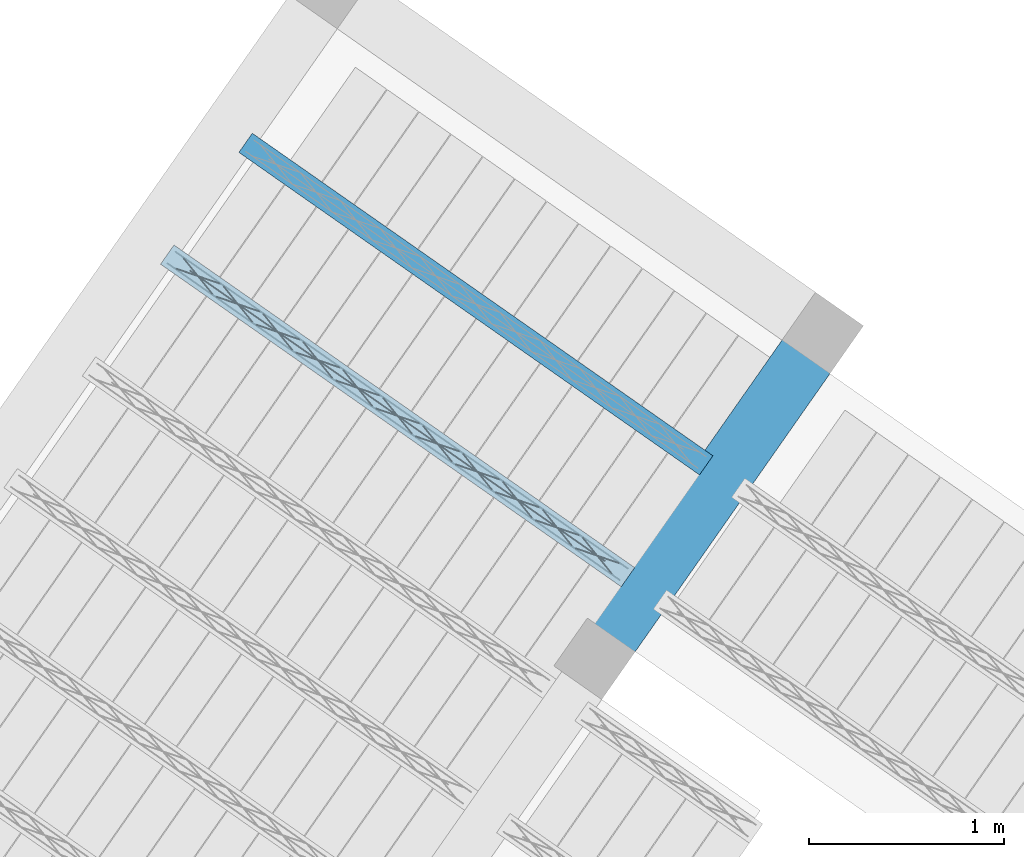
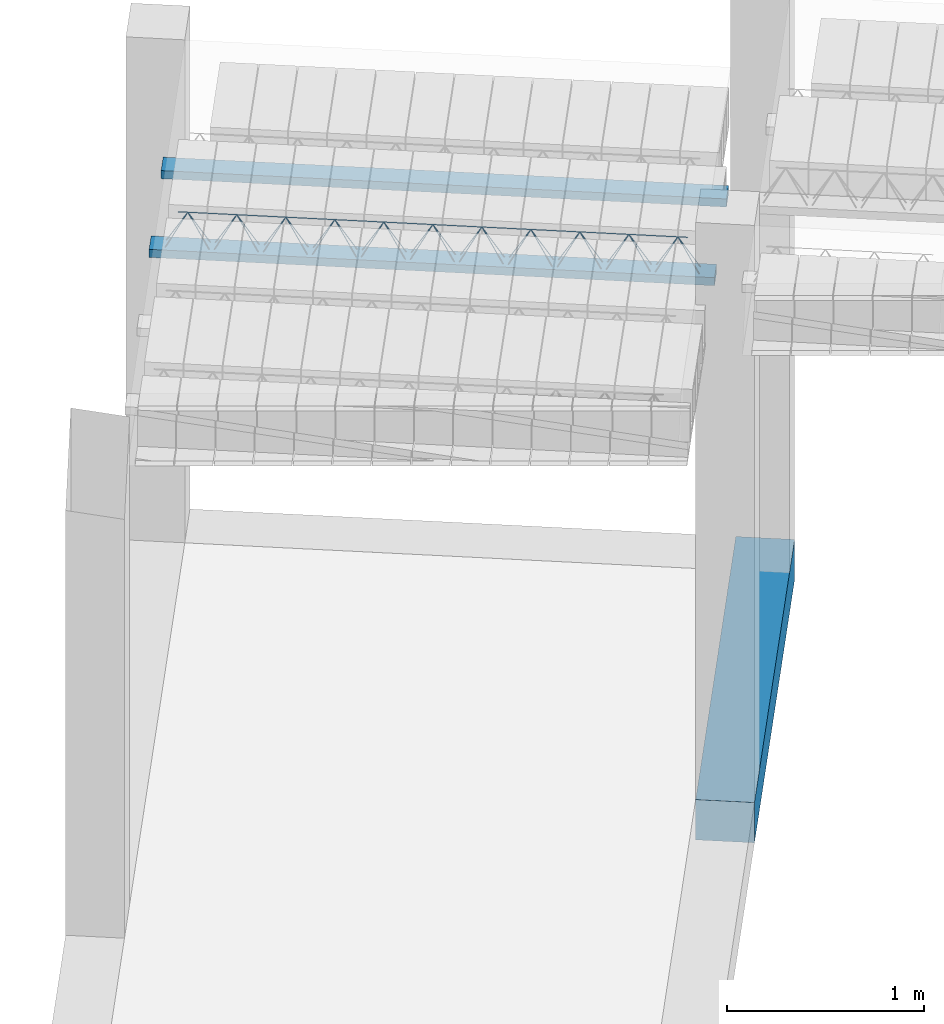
# One storey, part 40 of 80: 3 beams.
"""IFC2X3 building model written with IfcOpenShell, lengths in metres."""

from ifc_helpers import new_model, entity, si_unit, converted_unit, derived_unit, direction, frame, frame_2d, origin, origin_2d_with_axis, place, context, subcontext, project, spatial, rectangle, circle, extrude, material, type_object, element, save


model = new_model("IFC2X3")

# Units and contexts
model_context = context("Model", 3, precision=1e-05, world=origin(), true_north=direction((6.123031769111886e-17, 1.0)))
body_context = subcontext(model_context, "Body", "Model", "MODEL_VIEW")
ifc_project = project(units=[si_unit("LENGTHUNIT", "METRE"), si_unit("AREAUNIT", "SQUARE_METRE"), si_unit("VOLUMEUNIT", "CUBIC_METRE"), converted_unit("PLANEANGLEUNIT", "DEGREE", entity("IfcPlaneAngleMeasure", 0.017453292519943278), si_unit("PLANEANGLEUNIT", "RADIAN"), dimensions=[0, 0, 0, 0, 0, 0, 0]), si_unit("MASSUNIT", "GRAM", prefix="KILO"), derived_unit("MASSDENSITYUNIT", [(si_unit("MASSUNIT", "GRAM", prefix="KILO"), 1), (si_unit("LENGTHUNIT", "METRE"), -3)]), derived_unit("IONCONCENTRATIONUNIT", [(si_unit("MASSUNIT", "GRAM", prefix="KILO"), 1), (si_unit("LENGTHUNIT", "METRE"), -3)]), derived_unit("MOMENTOFINERTIAUNIT", [(si_unit("LENGTHUNIT", "METRE"), 4)]), si_unit("TIMEUNIT", "SECOND"), si_unit("FREQUENCYUNIT", "HERTZ"), si_unit("THERMODYNAMICTEMPERATUREUNIT", "DEGREE_CELSIUS"), derived_unit("THERMALTRANSMITTANCEUNIT", [(si_unit("MASSUNIT", "GRAM", prefix="KILO"), 1), (si_unit("THERMODYNAMICTEMPERATUREUNIT", "KELVIN"), -1), (si_unit("TIMEUNIT", "SECOND"), -3)]), derived_unit("THERMALCONDUCTANCEUNIT", [(si_unit("MASSUNIT", "GRAM", prefix="KILO"), 1), (si_unit("THERMODYNAMICTEMPERATUREUNIT", "KELVIN"), -1), (si_unit("TIMEUNIT", "SECOND"), -3), (si_unit("LENGTHUNIT", "METRE"), 1)]), derived_unit("VOLUMETRICFLOWRATEUNIT", [(si_unit("LENGTHUNIT", "METRE", prefix="DECI"), 3), (si_unit("TIMEUNIT", "SECOND"), -1)]), derived_unit("MASSFLOWRATEUNIT", [(si_unit("MASSUNIT", "GRAM", prefix="KILO"), 1), (si_unit("TIMEUNIT", "SECOND"), -1)]), derived_unit("ROTATIONALFREQUENCYUNIT", [(si_unit("TIMEUNIT", "SECOND"), -1)]), si_unit("ELECTRICCURRENTUNIT", "AMPERE"), si_unit("ELECTRICVOLTAGEUNIT", "VOLT"), si_unit("POWERUNIT", "WATT"), si_unit("FORCEUNIT", "NEWTON", prefix="KILO"), si_unit("ILLUMINANCEUNIT", "LUX"), si_unit("LUMINOUSFLUXUNIT", "LUMEN"), si_unit("LUMINOUSINTENSITYUNIT", "CANDELA"), si_unit("ENERGYUNIT", "JOULE"), derived_unit("USERDEFINED", [(si_unit("MASSUNIT", "GRAM", prefix="KILO"), -1), (si_unit("LENGTHUNIT", "METRE"), -2), (si_unit("TIMEUNIT", "SECOND"), 3), (si_unit("LUMINOUSFLUXUNIT", "LUMEN"), 1)]), derived_unit("USERDEFINED", [(si_unit("MASSUNIT", "GRAM", prefix="KILO"), 1), (si_unit("TIMEUNIT", "SECOND"), -3), (si_unit("LENGTHUNIT", "METRE"), 3), (si_unit("ELECTRICCURRENTUNIT", "AMPERE"), -2)]), derived_unit("SOUNDPOWERUNIT", [(si_unit("MASSUNIT", "GRAM", prefix="KILO"), 1), (si_unit("TIMEUNIT", "SECOND"), -3), (si_unit("LENGTHUNIT", "METRE"), 2)]), derived_unit("SOUNDPRESSUREUNIT", [(si_unit("MASSUNIT", "GRAM", prefix="KILO"), 1), (si_unit("LENGTHUNIT", "METRE"), -1), (si_unit("TIMEUNIT", "SECOND"), -2)]), derived_unit("LINEARVELOCITYUNIT", [(si_unit("LENGTHUNIT", "METRE"), 1), (si_unit("TIMEUNIT", "SECOND"), -1)]), si_unit("PRESSUREUNIT", "PASCAL"), derived_unit("USERDEFINED", [(si_unit("MASSUNIT", "GRAM", prefix="KILO"), 1), (si_unit("LENGTHUNIT", "METRE"), -2), (si_unit("TIMEUNIT", "SECOND"), -2)]), derived_unit("LINEARFORCEUNIT", [(si_unit("MASSUNIT", "GRAM", prefix="KILO"), 1), (si_unit("TIMEUNIT", "SECOND"), -2)]), derived_unit("PLANARFORCEUNIT", [(si_unit("MASSUNIT", "GRAM", prefix="KILO"), 1), (si_unit("LENGTHUNIT", "METRE"), -1), (si_unit("TIMEUNIT", "SECOND"), -2)]), derived_unit("SPECIFICHEATCAPACITYUNIT", [(si_unit("THERMODYNAMICTEMPERATUREUNIT", "KELVIN"), -1), (si_unit("LENGTHUNIT", "METRE"), 2), (si_unit("TIMEUNIT", "SECOND"), -2)]), derived_unit("HEATFLUXDENSITYUNIT", [(si_unit("MASSUNIT", "GRAM", prefix="KILO"), 1), (si_unit("TIMEUNIT", "SECOND"), -3)]), derived_unit("HEATINGVALUEUNIT", [(si_unit("LENGTHUNIT", "METRE"), 2), (si_unit("TIMEUNIT", "SECOND"), -2)]), derived_unit("VAPORPERMEABILITYUNIT", [(si_unit("LENGTHUNIT", "METRE"), -1), (si_unit("TIMEUNIT", "SECOND"), 1)]), derived_unit("DYNAMICVISCOSITYUNIT", [(si_unit("MASSUNIT", "GRAM", prefix="KILO"), 1), (si_unit("TIMEUNIT", "SECOND"), -1), (si_unit("LENGTHUNIT", "METRE"), -1)]), derived_unit("THERMALEXPANSIONCOEFFICIENTUNIT", [(si_unit("THERMODYNAMICTEMPERATUREUNIT", "KELVIN"), -1)]), derived_unit("MODULUSOFELASTICITYUNIT", [(si_unit("MASSUNIT", "GRAM", prefix="KILO"), 1), (si_unit("LENGTHUNIT", "METRE"), -1), (si_unit("TIMEUNIT", "SECOND"), -2)]), derived_unit("ISOTHERMALMOISTURECAPACITYUNIT", [(si_unit("MASSUNIT", "GRAM", prefix="KILO"), -1), (si_unit("LENGTHUNIT", "METRE"), 3)]), derived_unit("MOISTUREDIFFUSIVITYUNIT", [(si_unit("TIMEUNIT", "SECOND"), -1), (si_unit("LENGTHUNIT", "METRE"), 2)]), derived_unit("MASSPERLENGTHUNIT", [(si_unit("MASSUNIT", "GRAM", prefix="KILO"), 1), (si_unit("LENGTHUNIT", "METRE"), -1)]), derived_unit("THERMALRESISTANCEUNIT", [(si_unit("MASSUNIT", "GRAM", prefix="KILO"), -1), (si_unit("TIMEUNIT", "SECOND"), 3), (si_unit("THERMODYNAMICTEMPERATUREUNIT", "KELVIN"), 1)]), derived_unit("ACCELERATIONUNIT", [(si_unit("LENGTHUNIT", "METRE"), 1), (si_unit("TIMEUNIT", "SECOND"), -2)]), derived_unit("ANGULARVELOCITYUNIT", [(si_unit("TIMEUNIT", "SECOND"), -1), (si_unit("PLANEANGLEUNIT", "RADIAN"), 1)]), derived_unit("LINEARSTIFFNESSUNIT", [(si_unit("MASSUNIT", "GRAM", prefix="KILO"), 1), (si_unit("TIMEUNIT", "SECOND"), -2)]), derived_unit("WARPINGCONSTANTUNIT", [(si_unit("LENGTHUNIT", "METRE"), 6)]), derived_unit("LINEARMOMENTUNIT", [(si_unit("MASSUNIT", "GRAM", prefix="KILO"), 1), (si_unit("LENGTHUNIT", "METRE"), 1), (si_unit("TIMEUNIT", "SECOND"), -2)]), derived_unit("TORQUEUNIT", [(si_unit("MASSUNIT", "GRAM", prefix="KILO"), 1), (si_unit("LENGTHUNIT", "METRE"), 2), (si_unit("TIMEUNIT", "SECOND"), -2)])], contexts=[model_context])

# Site, building, storey
site_placement = place(None, origin())
site = spatial("IfcSite", under=ifc_project, at=site_placement, Name="Default", CompositionType="ELEMENT")
building_placement = place(site_placement, origin())
building = spatial("IfcBuilding", under=site, at=building_placement, CompositionType="ELEMENT")
storey_placement = place(building_placement, frame((0.0, 0.0, 95.94)))
storey = spatial("IfcBuildingStorey", under=building, at=storey_placement, Name="PB", CompositionType="ELEMENT", Elevation=95.94)

# Beams
beam_type = type_object("IfcBeamType", Name="Vigueta 13 (Paño 2) (Mf = 11.09)", PredefinedType="JOIST")
beam_1_placement = place(storey_placement, origin())
element("IfcBeam", 1, at=beam_1_placement, inside=storey, type_object=beam_type, Name="Vigueta 13 (Paño 2) (Mf = 11.09)", ObjectType="Mf = 11.09", context=body_context, shape_type="SweptSolid", body=[
    extrude(rectangle(XDim=2.8843562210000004, YDim=0.12000000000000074, at=frame_2d((-4.440892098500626e-16, -3.365363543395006e-16), x_axis=(1.0, 0.0))), frame((4.819488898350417, 8.772409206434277, 2.82), z_axis=(0.0, 0.0, 1.0), x_axis=(0.8191520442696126, -0.5735764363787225, 0.0)), (0.0, 0.0, 1.0), 0.04999999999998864),
    extrude(circle(Radius=0.0025, at=origin_2d_with_axis()), frame((5.960543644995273, 7.9294861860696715, 2.8449999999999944), z_axis=(-0.8191520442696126, 0.5735764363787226, 0.0), x_axis=(-0.5735764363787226, -0.8191520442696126, 0.0)), (0.0, 0.0, 1.0), 2.836356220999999),
    extrude(circle(Radius=0.0025, at=origin_2d_with_axis()), frame((3.754591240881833, 9.51805857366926, 3.069999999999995), z_axis=(0.8191520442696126, -0.5735764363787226, 0.0), x_axis=(-0.5735764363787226, -0.8191520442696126, 0.0)), (0.0, 0.0, 1.0), 2.599999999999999),
    extrude(circle(Radius=0.0025, at=origin_2d_with_axis()), frame((5.925174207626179, 7.954252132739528, 2.8449999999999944), z_axis=(-0.3145304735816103, 0.389334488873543, 0.8657304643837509), x_axis=(-0.7778747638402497, -0.6284193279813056, 0.0)), (0.0, 0.0, 1.0), 0.2598961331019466),
    extrude(circle(Radius=0.0025, at=origin_2d_with_axis()), frame((5.720386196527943, 8.097646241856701, 2.8449999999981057), z_axis=(0.47343050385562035, -0.1624017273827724, 0.8657304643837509), x_axis=(-0.3244721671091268, -0.9458952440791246, 0.0)), (0.0, 0.0, 1.0), 0.25989613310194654),
    extrude(circle(Radius=0.0025, at=origin_2d_with_axis()), frame((5.720386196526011, 8.09764624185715, 2.8449999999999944), z_axis=(-0.3145304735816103, 0.389334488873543, 0.8657304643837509), x_axis=(-0.7778747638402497, -0.6284193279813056, 0.0)), (0.0, 0.0, 1.0), 0.2598961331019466),
    extrude(circle(Radius=0.0025, at=origin_2d_with_axis()), frame((5.51559818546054, 8.241040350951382, 2.8449999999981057), z_axis=(0.47343050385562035, -0.1624017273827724, 0.8657304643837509), x_axis=(-0.3244721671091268, -0.9458952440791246, 0.0)), (0.0, 0.0, 1.0), 0.25989613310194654),
    extrude(circle(Radius=0.0025, at=origin_2d_with_axis()), frame((5.5155981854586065, 8.241040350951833, 2.8449999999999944), z_axis=(-0.3145304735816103, 0.389334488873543, 0.8657304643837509), x_axis=(-0.7778747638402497, -0.6284193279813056, 0.0)), (0.0, 0.0, 1.0), 0.2598961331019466),
    extrude(circle(Radius=0.0025, at=origin_2d_with_axis()), frame((5.310810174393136, 8.38443446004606, 2.8449999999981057), z_axis=(0.47343050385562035, -0.1624017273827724, 0.8657304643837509), x_axis=(-0.3244721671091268, -0.9458952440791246, 0.0)), (0.0, 0.0, 1.0), 0.25989613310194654),
    extrude(circle(Radius=0.0025, at=origin_2d_with_axis()), frame((5.310810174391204, 8.384434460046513, 2.8449999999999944), z_axis=(-0.3145304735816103, 0.389334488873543, 0.8657304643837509), x_axis=(-0.7778747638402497, -0.6284193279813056, 0.0)), (0.0, 0.0, 1.0), 0.2598961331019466),
    extrude(circle(Radius=0.0025, at=origin_2d_with_axis()), frame((5.106022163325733, 8.527828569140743, 2.8449999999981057), z_axis=(0.47343050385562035, -0.1624017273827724, 0.8657304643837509), x_axis=(-0.3244721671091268, -0.9458952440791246, 0.0)), (0.0, 0.0, 1.0), 0.25989613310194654),
    extrude(circle(Radius=0.0025, at=origin_2d_with_axis()), frame((5.1060221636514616, 8.527828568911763, 2.8449999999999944), z_axis=(-0.3145304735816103, 0.389334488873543, 0.8657304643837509), x_axis=(-0.7778747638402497, -0.6284193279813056, 0.0)), (0.0, 0.0, 1.0), 0.2598961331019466),
    extrude(circle(Radius=0.0025, at=origin_2d_with_axis()), frame((4.9012341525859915, 8.671222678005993, 2.8449999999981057), z_axis=(0.47343050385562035, -0.1624017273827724, 0.8657304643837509), x_axis=(-0.3244721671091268, -0.9458952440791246, 0.0)), (0.0, 0.0, 1.0), 0.25989613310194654),
    extrude(circle(Radius=0.0025, at=origin_2d_with_axis()), frame((4.901234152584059, 8.671222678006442, 2.8449999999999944), z_axis=(-0.3145304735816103, 0.389334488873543, 0.8657304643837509), x_axis=(-0.7778747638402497, -0.6284193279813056, 0.0)), (0.0, 0.0, 1.0), 0.2598961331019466),
    extrude(circle(Radius=0.0025, at=origin_2d_with_axis()), frame((4.696446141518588, 8.814616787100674, 2.8449999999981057), z_axis=(0.47343050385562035, -0.1624017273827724, 0.8657304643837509), x_axis=(-0.3244721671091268, -0.9458952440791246, 0.0)), (0.0, 0.0, 1.0), 0.25989613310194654),
    extrude(circle(Radius=0.0025, at=origin_2d_with_axis()), frame((4.696446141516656, 8.814616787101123, 2.8449999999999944), z_axis=(-0.3145304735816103, 0.389334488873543, 0.8657304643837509), x_axis=(-0.7778747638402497, -0.6284193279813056, 0.0)), (0.0, 0.0, 1.0), 0.2598961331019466),
    extrude(circle(Radius=0.0025, at=origin_2d_with_axis()), frame((4.491658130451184, 8.958010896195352, 2.8449999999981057), z_axis=(0.47343050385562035, -0.1624017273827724, 0.8657304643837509), x_axis=(-0.3244721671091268, -0.9458952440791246, 0.0)), (0.0, 0.0, 1.0), 0.25989613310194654),
    extrude(circle(Radius=0.0025, at=origin_2d_with_axis()), frame((4.491658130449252, 8.958010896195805, 2.8449999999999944), z_axis=(-0.3145304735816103, 0.389334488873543, 0.8657304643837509), x_axis=(-0.7778747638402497, -0.6284193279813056, 0.0)), (0.0, 0.0, 1.0), 0.2598961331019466),
    extrude(circle(Radius=0.0025, at=origin_2d_with_axis()), frame((4.2868701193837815, 9.101405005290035, 2.8449999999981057), z_axis=(0.47343050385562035, -0.1624017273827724, 0.8657304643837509), x_axis=(-0.3244721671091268, -0.9458952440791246, 0.0)), (0.0, 0.0, 1.0), 0.25989613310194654),
    extrude(circle(Radius=0.0025, at=origin_2d_with_axis()), frame((4.286870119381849, 9.101405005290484, 2.8449999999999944), z_axis=(-0.3145304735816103, 0.389334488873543, 0.8657304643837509), x_axis=(-0.7778747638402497, -0.6284193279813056, 0.0)), (0.0, 0.0, 1.0), 0.2598961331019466),
    extrude(circle(Radius=0.0025, at=origin_2d_with_axis()), frame((4.082082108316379, 9.244799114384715, 2.8449999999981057), z_axis=(0.47343050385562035, -0.1624017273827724, 0.8657304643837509), x_axis=(-0.3244721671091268, -0.9458952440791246, 0.0)), (0.0, 0.0, 1.0), 0.25989613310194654),
    extrude(circle(Radius=0.0025, at=origin_2d_with_axis()), frame((4.082082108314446, 9.244799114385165, 2.8449999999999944), z_axis=(-0.3145304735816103, 0.389334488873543, 0.8657304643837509), x_axis=(-0.7778747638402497, -0.6284193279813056, 0.0)), (0.0, 0.0, 1.0), 0.2598961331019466),
    extrude(circle(Radius=0.0025, at=origin_2d_with_axis()), frame((3.877294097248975, 9.388193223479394, 2.8449999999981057), z_axis=(0.47343050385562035, -0.1624017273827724, 0.8657304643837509), x_axis=(-0.3244721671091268, -0.9458952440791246, 0.0)), (0.0, 0.0, 1.0), 0.25989613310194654),
    extrude(circle(Radius=0.0025, at=origin_2d_with_axis()), frame((3.8772940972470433, 9.388193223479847, 2.8449999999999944), z_axis=(-0.3145304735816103, 0.389334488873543, 0.8657304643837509), x_axis=(-0.7778747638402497, -0.6284193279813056, 0.0)), (0.0, 0.0, 1.0), 0.2598961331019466),
    extrude(circle(Radius=0.0025, at=origin_2d_with_axis()), frame((3.672506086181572, 9.531587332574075, 2.8449999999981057), z_axis=(0.47343050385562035, -0.1624017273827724, 0.8657304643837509), x_axis=(-0.3244721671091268, -0.9458952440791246, 0.0)), (0.0, 0.0, 1.0), 0.25989613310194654),
    extrude(circle(Radius=0.0025, at=origin_2d_with_axis()), frame((6.00184114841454, 7.988465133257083, 2.8449999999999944), z_axis=(-0.8191520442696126, 0.5735764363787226, 0.0), x_axis=(-0.5735764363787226, -0.8191520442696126, 0.0)), (0.0, 0.0, 1.0), 2.836356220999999),
    extrude(circle(Radius=0.0025, at=origin_2d_with_axis()), frame((5.966471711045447, 8.01323107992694, 2.8449999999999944), z_axis=(-0.47343050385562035, 0.1624017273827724, 0.8657304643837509), x_axis=(-0.3244721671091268, -0.9458952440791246, 0.0)), (0.0, 0.0, 1.0), 0.25989613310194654),
    extrude(circle(Radius=0.0025, at=origin_2d_with_axis()), frame((5.761683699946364, 8.156625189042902, 2.8449999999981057), z_axis=(0.3145304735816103, -0.389334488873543, 0.8657304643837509), x_axis=(-0.7778747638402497, -0.6284193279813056, 0.0)), (0.0, 0.0, 1.0), 0.2598961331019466),
    extrude(circle(Radius=0.0025, at=origin_2d_with_axis()), frame((5.761683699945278, 8.156625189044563, 2.8449999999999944), z_axis=(-0.47343050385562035, 0.1624017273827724, 0.8657304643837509), x_axis=(-0.3244721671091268, -0.9458952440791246, 0.0)), (0.0, 0.0, 1.0), 0.25989613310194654),
    extrude(circle(Radius=0.0025, at=origin_2d_with_axis()), frame((5.556895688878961, 8.300019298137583, 2.8449999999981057), z_axis=(0.3145304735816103, -0.389334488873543, 0.8657304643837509), x_axis=(-0.7778747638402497, -0.6284193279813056, 0.0)), (0.0, 0.0, 1.0), 0.2598961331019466),
    extrude(circle(Radius=0.0025, at=origin_2d_with_axis()), frame((5.556895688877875, 8.300019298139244, 2.8449999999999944), z_axis=(-0.47343050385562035, 0.1624017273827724, 0.8657304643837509), x_axis=(-0.3244721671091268, -0.9458952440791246, 0.0)), (0.0, 0.0, 1.0), 0.25989613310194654),
    extrude(circle(Radius=0.0025, at=origin_2d_with_axis()), frame((5.352107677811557, 8.443413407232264, 2.8449999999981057), z_axis=(0.3145304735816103, -0.389334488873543, 0.8657304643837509), x_axis=(-0.7778747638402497, -0.6284193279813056, 0.0)), (0.0, 0.0, 1.0), 0.2598961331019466),
    extrude(circle(Radius=0.0025, at=origin_2d_with_axis()), frame((5.352107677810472, 8.443413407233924, 2.8449999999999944), z_axis=(-0.47343050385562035, 0.1624017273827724, 0.8657304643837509), x_axis=(-0.3244721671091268, -0.9458952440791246, 0.0)), (0.0, 0.0, 1.0), 0.25989613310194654),
    extrude(circle(Radius=0.0025, at=origin_2d_with_axis()), frame((5.147319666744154, 8.586807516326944, 2.8449999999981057), z_axis=(0.3145304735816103, -0.389334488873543, 0.8657304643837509), x_axis=(-0.7778747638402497, -0.6284193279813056, 0.0)), (0.0, 0.0, 1.0), 0.2598961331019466),
    extrude(circle(Radius=0.0025, at=origin_2d_with_axis()), frame((5.147319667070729, 8.586807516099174, 2.8449999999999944), z_axis=(-0.47343050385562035, 0.1624017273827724, 0.8657304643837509), x_axis=(-0.3244721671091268, -0.9458952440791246, 0.0)), (0.0, 0.0, 1.0), 0.25989613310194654),
    extrude(circle(Radius=0.0025, at=origin_2d_with_axis()), frame((4.942531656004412, 8.730201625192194, 2.8449999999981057), z_axis=(0.3145304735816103, -0.389334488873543, 0.8657304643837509), x_axis=(-0.7778747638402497, -0.6284193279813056, 0.0)), (0.0, 0.0, 1.0), 0.2598961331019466),
    extrude(circle(Radius=0.0025, at=origin_2d_with_axis()), frame((4.942531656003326, 8.730201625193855, 2.8449999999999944), z_axis=(-0.47343050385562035, 0.1624017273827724, 0.8657304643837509), x_axis=(-0.3244721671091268, -0.9458952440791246, 0.0)), (0.0, 0.0, 1.0), 0.25989613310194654),
    extrude(circle(Radius=0.0025, at=origin_2d_with_axis()), frame((4.737743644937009, 8.873595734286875, 2.8449999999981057), z_axis=(0.3145304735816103, -0.389334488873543, 0.8657304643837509), x_axis=(-0.7778747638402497, -0.6284193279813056, 0.0)), (0.0, 0.0, 1.0), 0.2598961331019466),
    extrude(circle(Radius=0.0025, at=origin_2d_with_axis()), frame((4.737743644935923, 8.873595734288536, 2.8449999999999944), z_axis=(-0.47343050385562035, 0.1624017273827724, 0.8657304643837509), x_axis=(-0.3244721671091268, -0.9458952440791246, 0.0)), (0.0, 0.0, 1.0), 0.25989613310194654),
    extrude(circle(Radius=0.0025, at=origin_2d_with_axis()), frame((4.532955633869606, 9.016989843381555, 2.8449999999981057), z_axis=(0.3145304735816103, -0.389334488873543, 0.8657304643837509), x_axis=(-0.7778747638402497, -0.6284193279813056, 0.0)), (0.0, 0.0, 1.0), 0.2598961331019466),
    extrude(circle(Radius=0.0025, at=origin_2d_with_axis()), frame((4.53295563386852, 9.016989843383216, 2.8449999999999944), z_axis=(-0.47343050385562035, 0.1624017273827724, 0.8657304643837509), x_axis=(-0.3244721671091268, -0.9458952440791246, 0.0)), (0.0, 0.0, 1.0), 0.25989613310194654),
    extrude(circle(Radius=0.0025, at=origin_2d_with_axis()), frame((4.328167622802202, 9.160383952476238, 2.8449999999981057), z_axis=(0.3145304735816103, -0.389334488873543, 0.8657304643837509), x_axis=(-0.7778747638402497, -0.6284193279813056, 0.0)), (0.0, 0.0, 1.0), 0.2598961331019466),
    extrude(circle(Radius=0.0025, at=origin_2d_with_axis()), frame((4.328167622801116, 9.160383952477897, 2.8449999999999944), z_axis=(-0.47343050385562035, 0.1624017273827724, 0.8657304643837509), x_axis=(-0.3244721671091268, -0.9458952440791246, 0.0)), (0.0, 0.0, 1.0), 0.25989613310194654),
    extrude(circle(Radius=0.0025, at=origin_2d_with_axis()), frame((4.1233796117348, 9.303778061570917, 2.8449999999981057), z_axis=(0.3145304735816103, -0.389334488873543, 0.8657304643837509), x_axis=(-0.7778747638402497, -0.6284193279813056, 0.0)), (0.0, 0.0, 1.0), 0.2598961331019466),
    extrude(circle(Radius=0.0025, at=origin_2d_with_axis()), frame((4.123379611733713, 9.303778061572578, 2.8449999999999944), z_axis=(-0.47343050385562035, 0.1624017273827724, 0.8657304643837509), x_axis=(-0.3244721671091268, -0.9458952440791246, 0.0)), (0.0, 0.0, 1.0), 0.25989613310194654),
    extrude(circle(Radius=0.0025, at=origin_2d_with_axis()), frame((3.918591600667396, 9.447172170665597, 2.8449999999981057), z_axis=(0.3145304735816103, -0.389334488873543, 0.8657304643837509), x_axis=(-0.7778747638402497, -0.6284193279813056, 0.0)), (0.0, 0.0, 1.0), 0.2598961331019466),
    extrude(circle(Radius=0.0025, at=origin_2d_with_axis()), frame((3.9185916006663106, 9.447172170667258, 2.8449999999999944), z_axis=(-0.47343050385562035, 0.1624017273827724, 0.8657304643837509), x_axis=(-0.3244721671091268, -0.9458952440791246, 0.0)), (0.0, 0.0, 1.0), 0.25989613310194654),
    extrude(circle(Radius=0.0025, at=origin_2d_with_axis()), frame((3.713803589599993, 9.590566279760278, 2.8449999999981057), z_axis=(0.3145304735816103, -0.389334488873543, 0.8657304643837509), x_axis=(-0.7778747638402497, -0.6284193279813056, 0.0)), (0.0, 0.0, 1.0), 0.2598961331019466),
])
ifc_material = material(Name="Hormigón armado")
beam_2_placement = place(storey_placement, origin())
element("IfcBeam", 2, at=beam_2_placement, inside=storey, material=ifc_material, Name="Viga 6 (30x25)", ObjectType="30x25", context=body_context, shape_type="SweptSolid", body=[
    extrude(rectangle(XDim=0.2500000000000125, YDim=0.2999999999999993, at=frame_2d((0.0, -4.440892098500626e-16), x_axis=(1.0, 0.0))), frame((5.743765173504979, 7.403707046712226, -0.12500000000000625), z_axis=(0.5735764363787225, 0.8191520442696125, 0.0), x_axis=(0.0, 0.0, 1.0)), (0.0, 0.0, 1.0), 2.3400317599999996),
])
beam_3_placement = place(storey_placement, origin())
element("IfcBeam", 3, at=beam_3_placement, inside=storey, material=ifc_material, Name="237996", context=body_context, shape_type="SweptSolid", body=[
    extrude(rectangle(XDim=0.04999999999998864, YDim=0.11999999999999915, at=frame_2d((1.7324683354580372e-14, 0.0), x_axis=(1.0, 0.0))), frame((4.039658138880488, 10.172994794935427, 2.8450000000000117), z_axis=(0.8191520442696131, -0.5735764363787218, 0.0), x_axis=(0.0, 0.0, -1.0)), (0.0, 0.0, 1.0), 2.8843209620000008),
])

save(model, "model.ifc")
